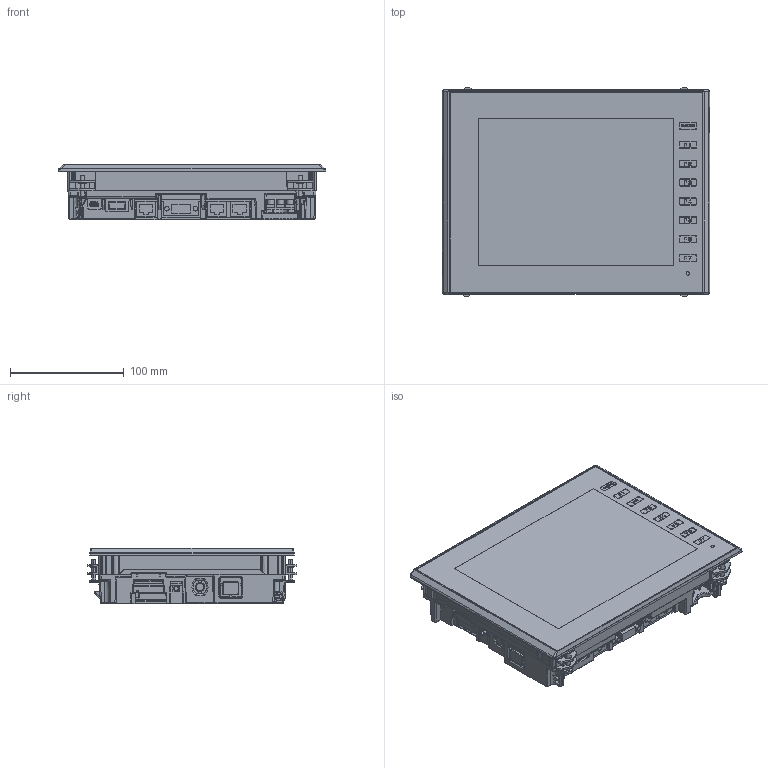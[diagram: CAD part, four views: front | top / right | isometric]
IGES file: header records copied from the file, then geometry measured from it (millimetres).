
Start section:  PTC IGES file: v9080isd_3d-data.igs
Global section: file name: v9080isd_3d-data.igs; native system: Pro/ENGINEER by Parametric Technology Corporation; preprocessor: 2007390; author: ichinose; organization: Unknown; date: 20140509.214311; units: millimetre
Bounding box: 235 x 183.7 x 48.9 mm (x, y, z)
Surface area: 137668.9 mm2 (no closed solid volume)
Topology: 0 solids, 0 shells, 3467 faces, 19178 edges, 19178 vertices
Faces by surface type: bspline 2834, revolution 624, extrusion 9
